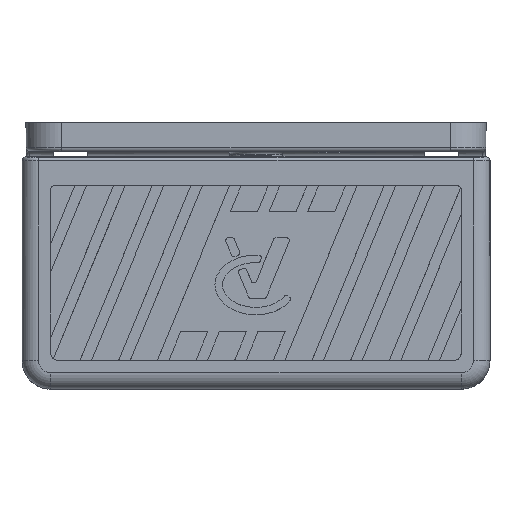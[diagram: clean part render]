
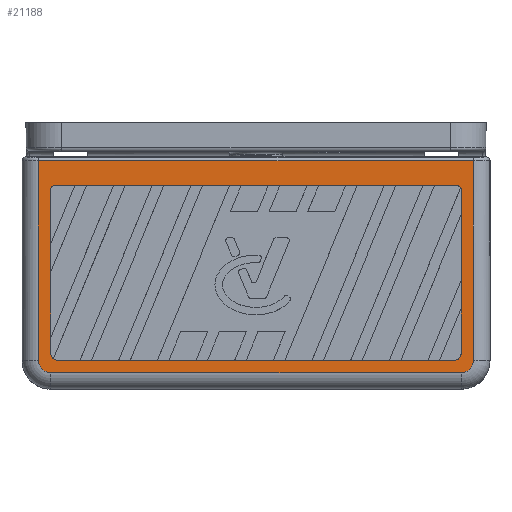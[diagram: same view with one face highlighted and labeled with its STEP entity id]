
A CAD part, front view. The second image highlights one B-rep face of the part: STEP entity #21188.
In plain terms, the highlighted planar face has unit normal (0, -1, 0) as drawn and (0, 0, 1) by its records, which use the part's own axes.
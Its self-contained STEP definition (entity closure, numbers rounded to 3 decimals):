
#165 = CARTESIAN_POINT ( 'NONE',  ( 28.75, 13.939, 3.5 ) ) ;
#186 = CARTESIAN_POINT ( 'NONE',  ( -28.719, 12.219, 3.5 ) ) ;
#387 = LINE ( 'NONE', #24460, #22075 ) ;
#578 = CARTESIAN_POINT ( 'NONE',  ( 28.719, -12.219, 3.5 ) ) ;
#596 = DIRECTION ( 'NONE',  ( 0., -1., 0. ) ) ;
#1337 = VERTEX_POINT ( 'NONE', #17211 ) ;
#1464 = EDGE_LOOP ( 'NONE', ( #20899, #15771, #35523, #15034, #38969, #21286, #9061, #7163 ) ) ;
#1719 = CARTESIAN_POINT ( 'NONE',  ( -27.719, 12.219, 3.5 ) ) ;
#2408 = CARTESIAN_POINT ( 'NONE',  ( -28.75, 13.939, 3.5 ) ) ;
#3165 = DIRECTION ( 'NONE',  ( 1., 0., 0. ) ) ;
#3201 = CARTESIAN_POINT ( 'NONE',  ( 28.719, 11.219, 3.5 ) ) ;
#3730 = VECTOR ( 'NONE', #37445, 1000. ) ;
#3952 = ORIENTED_EDGE ( 'NONE', *, *, #17496, .T. ) ;
#4153 = VERTEX_POINT ( 'NONE', #8471 ) ;
#4733 = LINE ( 'NONE', #38638, #33971 ) ;
#4744 = CARTESIAN_POINT ( 'NONE',  ( 28.512, -12.219, 3.5 ) ) ;
#4886 = ORIENTED_EDGE ( 'NONE', *, *, #28385, .T. ) ;
#4941 = EDGE_CURVE ( 'NONE', #1337, #37999, #34169, .T. ) ;
#4956 = CARTESIAN_POINT ( 'NONE',  ( 28.719, -12.012, 3.5 ) ) ;
#4969 = CARTESIAN_POINT ( 'NONE',  ( -27.719, 12.219, 3.5 ) ) ;
#5262 = CARTESIAN_POINT ( 'NONE',  ( -30.439, 12.25, 3.5 ) ) ;
#5478 = DIRECTION ( 'NONE',  ( 0., 0., 1. ) ) ;
#5713 = VERTEX_POINT ( 'NONE', #20041 ) ;
#6102 = VECTOR ( 'NONE', #22742, 1000. ) ;
#6308 = DIRECTION ( 'NONE',  ( 0., -1., 0. ) ) ;
#6491 = DIRECTION ( 'NONE',  ( 0., 1., 0. ) ) ;
#7163 = ORIENTED_EDGE ( 'NONE', *, *, #16558, .T. ) ;
#7472 = AXIS2_PLACEMENT_3D ( 'NONE', #37966, #28692, #16874 ) ;
#7719 = CARTESIAN_POINT ( 'NONE',  ( -28.719, 11.219, 3.5 ) ) ;
#8352 = ORIENTED_EDGE ( 'NONE', *, *, #27776, .T. ) ;
#8471 = CARTESIAN_POINT ( 'NONE',  ( -28.719, -11.719, 3.5 ) ) ;
#8848 = DIRECTION ( 'NONE',  ( 0., 1., 0. ) ) ;
#9061 = ORIENTED_EDGE ( 'NONE', *, *, #36096, .F. ) ;
#9279 = CARTESIAN_POINT ( 'NONE',  ( -30.439, 12.25, 3.5 ) ) ;
#9306 = EDGE_CURVE ( 'NONE', #22605, #36220, #12556, .T. ) ;
#9623 = EDGE_CURVE ( 'NONE', #13518, #37138, #25608, .T. ) ;
#10003 = VECTOR ( 'NONE', #6308, 1000. ) ;
#10165 = CARTESIAN_POINT ( 'NONE',  ( -28.75, 13.939, 3.5 ) ) ;
#10387 = VERTEX_POINT ( 'NONE', #12656 ) ;
#10647 = EDGE_CURVE ( 'NONE', #15164, #4153, #38653, .T. ) ;
#10950 = EDGE_CURVE ( 'NONE', #19804, #25845, #35836, .T. ) ;
#11392 =( BOUNDED_CURVE ( )  B_SPLINE_CURVE ( 3, ( #7719, #19760, #17183, #4969 ),
 .UNSPECIFIED., .F., .F. ) 
 B_SPLINE_CURVE_WITH_KNOTS ( ( 4, 4 ),
 ( 2.356, 3.927 ),
 .UNSPECIFIED. ) 
 CURVE ( )  GEOMETRIC_REPRESENTATION_ITEM ( )  RATIONAL_B_SPLINE_CURVE ( ( 1., 0.805, 0.805, 1. ) ) 
 REPRESENTATION_ITEM ( '' )  );
#11933 = FACE_OUTER_BOUND ( 'NONE', #35962, .T. ) ;
#12254 = CARTESIAN_POINT ( 'NONE',  ( 28.719, -11.719, 3.5 ) ) ;
#12314 = PLANE ( 'NONE',  #25032 ) ;
#12556 =( BOUNDED_CURVE ( )  B_SPLINE_CURVE ( 3, ( #33949, #4956, #4744, #34536 ),
 .UNSPECIFIED., .F., .F. ) 
 B_SPLINE_CURVE_WITH_KNOTS ( ( 4, 4 ),
 ( 2.356, 3.927 ),
 .UNSPECIFIED. ) 
 CURVE ( )  GEOMETRIC_REPRESENTATION_ITEM ( )  RATIONAL_B_SPLINE_CURVE ( ( 1., 0.805, 0.805, 1. ) ) 
 REPRESENTATION_ITEM ( '' )  );
#12609 = LINE ( 'NONE', #578, #30021 ) ;
#12656 = CARTESIAN_POINT ( 'NONE',  ( -28.219, -12.219, 3.5 ) ) ;
#13518 = VERTEX_POINT ( 'NONE', #22092 ) ;
#13799 = CIRCLE ( 'NONE', #7472, 1.689 ) ;
#14493 = CARTESIAN_POINT ( 'NONE',  ( 30.439, -15.724, 3.5 ) ) ;
#14629 = LINE ( 'NONE', #2408, #38218 ) ;
#14690 = DIRECTION ( 'NONE',  ( 0., 0., -1. ) ) ;
#15034 = ORIENTED_EDGE ( 'NONE', *, *, #33488, .T. ) ;
#15164 = VERTEX_POINT ( 'NONE', #31685 ) ;
#15771 = ORIENTED_EDGE ( 'NONE', *, *, #29564, .T. ) ;
#16558 = EDGE_CURVE ( 'NONE', #10387, #4153, #33511, .T. ) ;
#16715 = ORIENTED_EDGE ( 'NONE', *, *, #10950, .T. ) ;
#16874 = DIRECTION ( 'NONE',  ( -1., 0., 0. ) ) ;
#17183 = CARTESIAN_POINT ( 'NONE',  ( -28.305, 12.219, 3.5 ) ) ;
#17211 = CARTESIAN_POINT ( 'NONE',  ( -30.439, -15.724, 3.5 ) ) ;
#17496 = EDGE_CURVE ( 'NONE', #37628, #19804, #14629, .T. ) ;
#17511 = DIRECTION ( 'NONE',  ( -1., 0., 0. ) ) ;
#17616 = ORIENTED_EDGE ( 'NONE', *, *, #4941, .T. ) ;
#18821 = AXIS2_PLACEMENT_3D ( 'NONE', #33078, #5478, #17511 ) ;
#18840 = CARTESIAN_POINT ( 'NONE',  ( -28.512, -12.219, 3.5 ) ) ;
#19760 = CARTESIAN_POINT ( 'NONE',  ( -28.719, 11.805, 3.5 ) ) ;
#19804 = VERTEX_POINT ( 'NONE', #10165 ) ;
#20041 = CARTESIAN_POINT ( 'NONE',  ( 30.439, 12.25, 3.5 ) ) ;
#20373 = EDGE_CURVE ( 'NONE', #22605, #36452, #12609, .T. ) ;
#20899 = ORIENTED_EDGE ( 'NONE', *, *, #10647, .F. ) ;
#21188 = ADVANCED_FACE ( 'NONE', ( #11933, #27099 ), #12314, .F. ) ;
#21286 = ORIENTED_EDGE ( 'NONE', *, *, #9306, .T. ) ;
#21418 = CARTESIAN_POINT ( 'NONE',  ( -28.719, -12.012, 3.5 ) ) ;
#21797 = CARTESIAN_POINT ( 'NONE',  ( -28.719, -11.719, 3.5 ) ) ;
#22075 = VECTOR ( 'NONE', #3165, 1000. ) ;
#22092 = CARTESIAN_POINT ( 'NONE',  ( 27.719, 12.219, 3.5 ) ) ;
#22605 = VERTEX_POINT ( 'NONE', #12254 ) ;
#22742 = DIRECTION ( 'NONE',  ( 1., 0., 0. ) ) ;
#23342 = CARTESIAN_POINT ( 'NONE',  ( 28.719, 11.219, 3.5 ) ) ;
#24310 = EDGE_CURVE ( 'NONE', #25845, #1337, #30777, .T. ) ;
#24460 = CARTESIAN_POINT ( 'NONE',  ( -28.719, -12.219, 3.5 ) ) ;
#25032 = AXIS2_PLACEMENT_3D ( 'NONE', #29672, #14690, #30460 ) ;
#25608 = LINE ( 'NONE', #37253, #3730 ) ;
#25845 = VERTEX_POINT ( 'NONE', #5262 ) ;
#26557 = CARTESIAN_POINT ( 'NONE',  ( 28.219, -12.219, 3.5 ) ) ;
#26639 = DIRECTION ( 'NONE',  ( -1., 0., 0. ) ) ;
#26849 = CARTESIAN_POINT ( 'NONE',  ( 28.719, 11.805, 3.5 ) ) ;
#27099 = FACE_BOUND ( 'NONE', #1464, .T. ) ;
#27776 = EDGE_CURVE ( 'NONE', #5713, #37628, #13799, .T. ) ;
#28385 = EDGE_CURVE ( 'NONE', #37999, #5713, #4733, .T. ) ;
#28692 = DIRECTION ( 'NONE',  ( 0., 0., 1. ) ) ;
#29564 = EDGE_CURVE ( 'NONE', #15164, #37138, #11392, .T. ) ;
#29672 = CARTESIAN_POINT ( 'NONE',  ( -28.75, 12.25, 3.5 ) ) ;
#30021 = VECTOR ( 'NONE', #6491, 1000. ) ;
#30460 = DIRECTION ( 'NONE',  ( -1., 0., 0. ) ) ;
#30777 = LINE ( 'NONE', #9279, #33814 ) ;
#31685 = CARTESIAN_POINT ( 'NONE',  ( -28.719, 11.219, 3.5 ) ) ;
#32976 = CARTESIAN_POINT ( 'NONE',  ( 27.719, 12.219, 3.5 ) ) ;
#33078 = CARTESIAN_POINT ( 'NONE',  ( -28.75, 12.25, 3.5 ) ) ;
#33260 = CARTESIAN_POINT ( 'NONE',  ( -28.219, -12.219, 3.5 ) ) ;
#33488 = EDGE_CURVE ( 'NONE', #13518, #36452, #33855, .T. ) ;
#33511 =( BOUNDED_CURVE ( )  B_SPLINE_CURVE ( 3, ( #33260, #18840, #21418, #21797 ),
 .UNSPECIFIED., .F., .F. ) 
 B_SPLINE_CURVE_WITH_KNOTS ( ( 4, 4 ),
 ( 2.356, 3.927 ),
 .UNSPECIFIED. ) 
 CURVE ( )  GEOMETRIC_REPRESENTATION_ITEM ( )  RATIONAL_B_SPLINE_CURVE ( ( 1., 0.805, 0.805, 1. ) ) 
 REPRESENTATION_ITEM ( '' )  );
#33814 = VECTOR ( 'NONE', #596, 1000. ) ;
#33855 =( BOUNDED_CURVE ( )  B_SPLINE_CURVE ( 3, ( #32976, #36347, #26849, #3201 ),
 .UNSPECIFIED., .F., .F. ) 
 B_SPLINE_CURVE_WITH_KNOTS ( ( 4, 4 ),
 ( 2.356, 3.927 ),
 .UNSPECIFIED. ) 
 CURVE ( )  GEOMETRIC_REPRESENTATION_ITEM ( )  RATIONAL_B_SPLINE_CURVE ( ( 1., 0.805, 0.805, 1. ) ) 
 REPRESENTATION_ITEM ( '' )  );
#33949 = CARTESIAN_POINT ( 'NONE',  ( 28.719, -11.719, 3.5 ) ) ;
#33971 = VECTOR ( 'NONE', #8848, 1000. ) ;
#34169 = LINE ( 'NONE', #37747, #6102 ) ;
#34536 = CARTESIAN_POINT ( 'NONE',  ( 28.219, -12.219, 3.5 ) ) ;
#35523 = ORIENTED_EDGE ( 'NONE', *, *, #9623, .F. ) ;
#35836 = CIRCLE ( 'NONE', #18821, 1.689 ) ;
#35962 = EDGE_LOOP ( 'NONE', ( #39013, #17616, #4886, #8352, #3952, #16715 ) ) ;
#36096 = EDGE_CURVE ( 'NONE', #10387, #36220, #387, .T. ) ;
#36220 = VERTEX_POINT ( 'NONE', #26557 ) ;
#36347 = CARTESIAN_POINT ( 'NONE',  ( 28.305, 12.219, 3.5 ) ) ;
#36452 = VERTEX_POINT ( 'NONE', #23342 ) ;
#37138 = VERTEX_POINT ( 'NONE', #1719 ) ;
#37253 = CARTESIAN_POINT ( 'NONE',  ( 28.719, 12.219, 3.5 ) ) ;
#37445 = DIRECTION ( 'NONE',  ( -1., 0., 0. ) ) ;
#37628 = VERTEX_POINT ( 'NONE', #165 ) ;
#37747 = CARTESIAN_POINT ( 'NONE',  ( -28.75, -15.724, 3.5 ) ) ;
#37966 = CARTESIAN_POINT ( 'NONE',  ( 28.75, 12.25, 3.5 ) ) ;
#37999 = VERTEX_POINT ( 'NONE', #14493 ) ;
#38218 = VECTOR ( 'NONE', #26639, 1000. ) ;
#38638 = CARTESIAN_POINT ( 'NONE',  ( 30.439, 12.25, 3.5 ) ) ;
#38653 = LINE ( 'NONE', #186, #10003 ) ;
#38969 = ORIENTED_EDGE ( 'NONE', *, *, #20373, .F. ) ;
#39013 = ORIENTED_EDGE ( 'NONE', *, *, #24310, .T. ) ;
